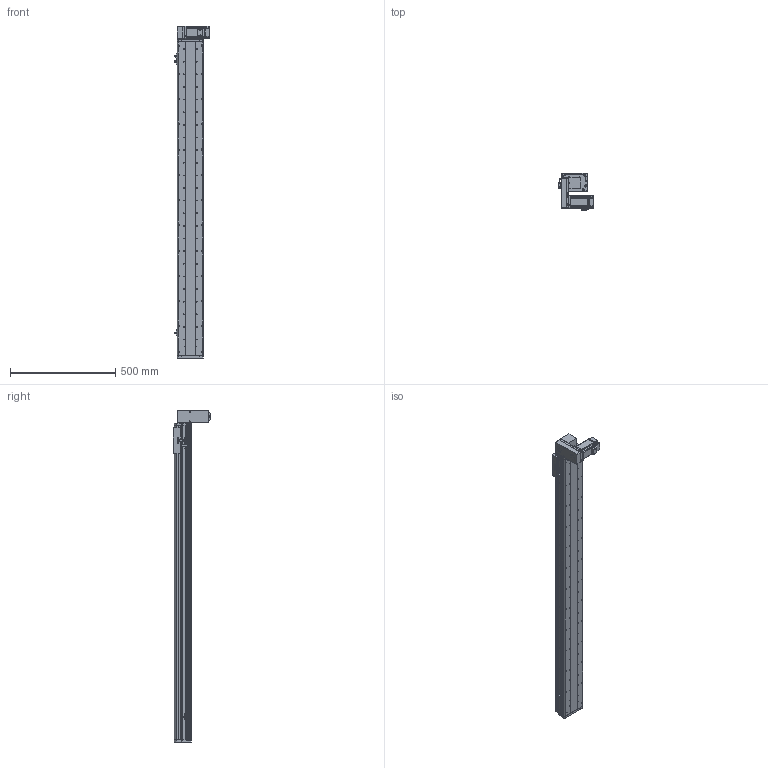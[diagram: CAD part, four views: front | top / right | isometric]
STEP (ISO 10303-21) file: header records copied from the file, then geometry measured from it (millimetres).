
FILE_DESCRIPTION (( 'STEP AP214' ), '1' );
FILE_NAME ('KSD125B-S1300-MRD-CM.STEP', '2017-10-21T06:33:26', ( '微软用户' ), ( '微软中国' ), 'SwSTEP 2.0', 'SolidWorks 2014', '' );
FILE_SCHEMA (( 'AUTOMOTIVE_DESIGN' ));
Length unit declared in the file: millimetre
Products named in the file (17): 100宽马达安装板连板上下折丝杆同步带; KSD125模组1300行程同步带-防尘盖; 125模组1300行程同步带-底板; MHMD042G1CA_2_03; KSD125模组同步带-防撞垫2; 覜茼え68遵圉猾敕; U倰嫖萇假蚾璃; U倰嫖萇EEㄜSX672; KSD125模组同步带-防撞垫1; 100宽马达安装板同步带右; 前端板-125宽模组同步带; 125模组同步带-尾端板1; KSD125模组同步带-滑动座1; KSD125B-S1300-MRD-CM; 悵誘欶奻狟殏; HTPA30S3M150_A_H6_a佪裝蚚; HTPA30S3M150_A_H6_a萇儂蚚
Assembly tree (20 placements, depth 2):
  KSD125B-S1300-MRD-CM
    KSD125模组同步带-滑动座1
    125模组同步带-尾端板1
    前端板-125宽模组同步带
    100宽马达安装板同步带右
    KSD125模组同步带-防撞垫1
    U倰嫖萇EEㄜSX672  x3
    U倰嫖萇假蚾璃  x3
    覜茼え68遵圉猾敕
    KSD125模组同步带-防撞垫2
    MHMD042G1CA_2_03
    125模组1300行程同步带-底板
    KSD125模组1300行程同步带-防尘盖
    100宽马达安装板连板上下折丝杆同步带
    HTPA30S3M150_A_H6_a萇儂蚚
    HTPA30S3M150_A_H6_a佪裝蚚
    悵誘欶奻狟殏
Bounding box: 168.7 x 179.5 x 1577 mm (x, y, z)
Volume: 4725869.7 mm3; surface area: 1573338.4 mm2
Topology: 19 solids, 22 shells, 2355 faces, 6835 edges, 4518 vertices
Faces by surface type: cylinder 1496, plane 732, cone 105, bspline 22
Entity records: 84241 total; most frequent: CARTESIAN_POINT 16603, DIRECTION 13080, ORIENTED_EDGE 12190, EDGE_CURVE 6173, AXIS2_PLACEMENT_3D 5071, VERTEX_POINT 4110, VECTOR 2938, LINE 2938
